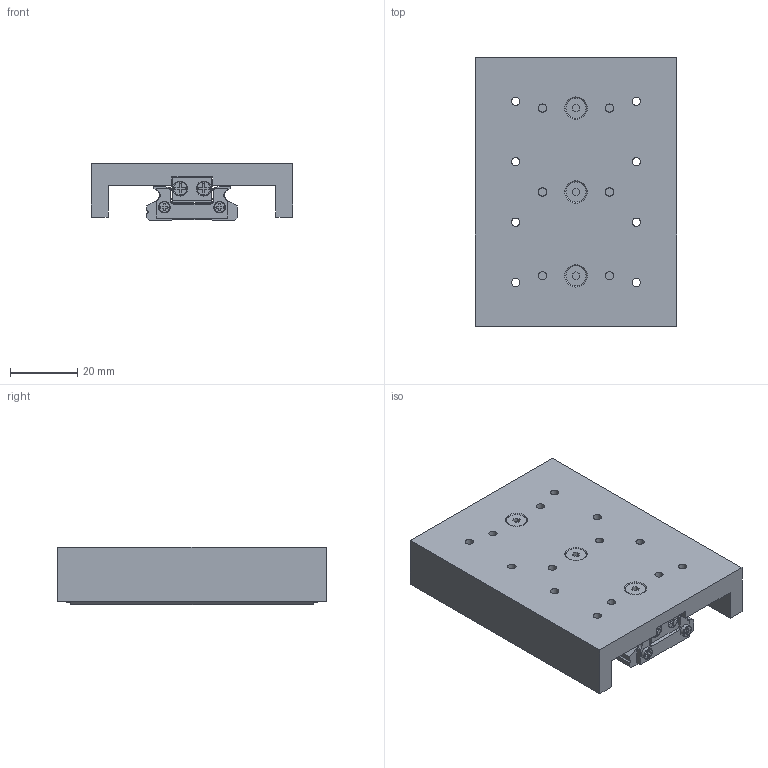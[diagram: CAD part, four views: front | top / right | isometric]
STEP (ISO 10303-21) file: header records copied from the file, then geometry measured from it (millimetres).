
FILE_DESCRIPTION(/* description */ ('MLO 60.080.069-ALU-SE'),/* implementation_level */ '2;1');
FILE_NAME(/* name */ 'ERO-078108.step',/* time_stamp */ '2025-07-02T13:12:36+02:00',/* author */ ('MM'),/* organization */ (''),/* preprocessor_version */ 'ST-DEVELOPER v19.2',/* originating_system */ 'Autodesk Inventor 2023',/* authorisation */ '');
FILE_SCHEMA (('AUTOMOTIVE_DESIGN { 1 0 10303 214 3 1 1 }'));
Length unit declared in the file: millimetre
Products named in the file (8): ERO-078108; ERO-041191; ERO-041189; ERO-041190; ERO-078111; ISO 4032 - SW5,5 - M3 - A2; ISO 10642 - M3 x  8 - A2/70; ERO-080427
Assembly tree (11 placements, depth 3):
  ERO-078108
    ERO-041191
      ERO-041189
      ERO-041190
    ERO-078111
    ISO 4032 - SW5,5 - M3 - A2  x3
    ISO 10642 - M3 x  8 - A2/70  x3
    ERO-080427
Bounding box: 60.01 x 80 x 17 mm (x, y, z)
Volume: 54092 mm3; surface area: 27627.7 mm2
Topology: 10 solids, 10 shells, 804 faces, 2117 edges, 1394 vertices
Faces by surface type: plane 597, cylinder 118, bspline 45, cone 37, torus 7
Full cylindrical faces by diameter (mm): 2.459 x17, 2.7 x6, 3 x3, 3.1 x6, 3.5 x10, 4 x4, 6 x9
Entity records: 24316 total; most frequent: CARTESIAN_POINT 4615, ORIENTED_EDGE 3974, DIRECTION 3632, EDGE_CURVE 1987, LINE 1586, VECTOR 1586, VERTEX_POINT 1314, AXIS2_PLACEMENT_3D 1023
